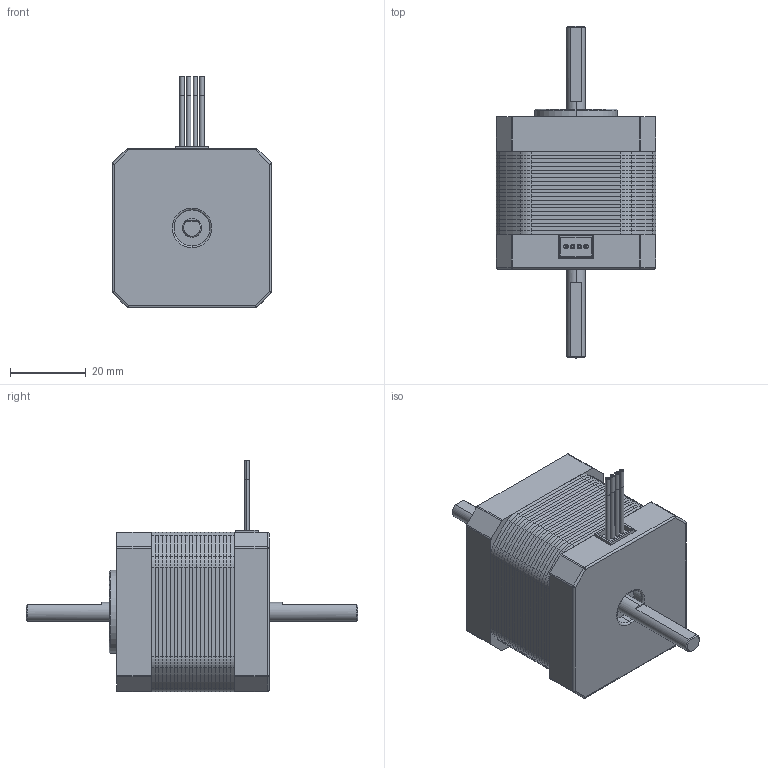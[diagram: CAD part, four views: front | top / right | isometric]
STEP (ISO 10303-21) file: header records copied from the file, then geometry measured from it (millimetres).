
FILE_DESCRIPTION (( 'STEP AP214' ), '1' );
FILE_NAME ('NEMA17_40mm_5mm_shaft_DS.STEP', '2020-11-14T13:46:33', ( 'Moofasta' ), ( '' ), 'SwSTEP 2.0', 'SolidWorks 2020', '' );
FILE_SCHEMA (( 'AUTOMOTIVE_DESIGN' ));
Length unit declared in the file: millimetre
Products named in the file (1): NEMA17_40mm_5mm_shaft_DS
Bounding box: 42.3 x 87.9 x 61.3 mm (x, y, z)
Volume: 70547.2 mm3; surface area: 89512 mm2
Topology: 33 solids, 33 shells, 560 faces, 1420 edges, 927 vertices
Faces by surface type: cylinder 338, plane 197, cone 15, sphere 8, torus 2
Entity records: 22350 total; most frequent: DIRECTION 3229, CARTESIAN_POINT 2912, ORIENTED_EDGE 2824, EDGE_CURVE 1412, AXIS2_PLACEMENT_3D 1260, VERTEX_POINT 927, VECTOR 709, LINE 709
